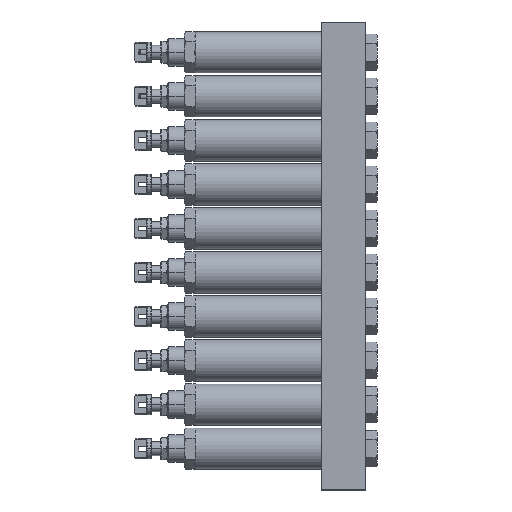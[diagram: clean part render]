
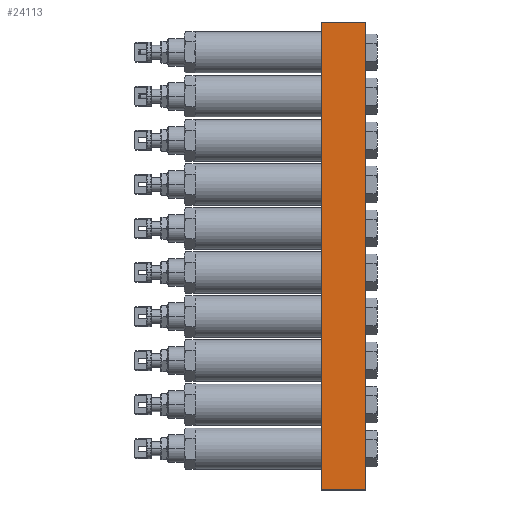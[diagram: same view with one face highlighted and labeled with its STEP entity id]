
A CAD part, left-side view. The second image highlights one B-rep face of the part: STEP entity #24113.
In plain terms, the highlighted planar face has unit normal (-1, 0, 0).
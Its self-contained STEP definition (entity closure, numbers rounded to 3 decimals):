
#157 = VERTEX_POINT ( 'NONE', #16193 ) ;
#922 = ORIENTED_EDGE ( 'NONE', *, *, #29813, .T. ) ;
#1280 = CARTESIAN_POINT ( 'NONE',  ( -39.141, -51.285, 22. ) ) ;
#1451 = VERTEX_POINT ( 'NONE', #27408 ) ;
#1725 = EDGE_CURVE ( 'NONE', #1451, #157, #31000, .T. ) ;
#1837 = EDGE_CURVE ( 'NONE', #33482, #157, #29148, .T. ) ;
#7020 = CARTESIAN_POINT ( 'NONE',  ( -39.141, -83.285, -318. ) ) ;
#7414 = AXIS2_PLACEMENT_3D ( 'NONE', #1280, #27989, #30556 ) ;
#10669 = CARTESIAN_POINT ( 'NONE',  ( -39.141, -51.285, -318. ) ) ;
#11656 = LINE ( 'NONE', #25946, #12994 ) ;
#12815 = ORIENTED_EDGE ( 'NONE', *, *, #1725, .F. ) ;
#12994 = VECTOR ( 'NONE', #23752, 1000. ) ;
#16193 = CARTESIAN_POINT ( 'NONE',  ( -39.141, -83.285, 22. ) ) ;
#16605 = EDGE_CURVE ( 'NONE', #23244, #1451, #11656, .T. ) ;
#16612 = ORIENTED_EDGE ( 'NONE', *, *, #1837, .T. ) ;
#18637 = VECTOR ( 'NONE', #20224, 1000. ) ;
#18803 = PLANE ( 'NONE',  #7414 ) ;
#20224 = DIRECTION ( 'NONE',  ( 0., -1., 0. ) ) ;
#20593 = DIRECTION ( 'NONE',  ( 0., 0., 1. ) ) ;
#21433 = CARTESIAN_POINT ( 'NONE',  ( -39.141, -51.285, -318. ) ) ;
#22637 = DIRECTION ( 'NONE',  ( 0., -1., 0. ) ) ;
#23244 = VERTEX_POINT ( 'NONE', #21433 ) ;
#23425 = EDGE_LOOP ( 'NONE', ( #16612, #12815, #28038, #922 ) ) ;
#23752 = DIRECTION ( 'NONE',  ( 0., 0., 1. ) ) ;
#24113 = ADVANCED_FACE ( 'NONE', ( #35200 ), #18803, .F. ) ;
#25946 = CARTESIAN_POINT ( 'NONE',  ( -39.141, -51.285, 22. ) ) ;
#25950 = VECTOR ( 'NONE', #20593, 1000. ) ;
#27408 = CARTESIAN_POINT ( 'NONE',  ( -39.141, -51.285, 22. ) ) ;
#27989 = DIRECTION ( 'NONE',  ( 1., 0., 0. ) ) ;
#28038 = ORIENTED_EDGE ( 'NONE', *, *, #16605, .F. ) ;
#29148 = LINE ( 'NONE', #29672, #25950 ) ;
#29415 = LINE ( 'NONE', #10669, #32151 ) ;
#29672 = CARTESIAN_POINT ( 'NONE',  ( -39.141, -83.285, 22. ) ) ;
#29813 = EDGE_CURVE ( 'NONE', #23244, #33482, #29415, .T. ) ;
#30556 = DIRECTION ( 'NONE',  ( 0., 0., -1. ) ) ;
#31000 = LINE ( 'NONE', #34813, #18637 ) ;
#32151 = VECTOR ( 'NONE', #22637, 1000. ) ;
#33482 = VERTEX_POINT ( 'NONE', #7020 ) ;
#34813 = CARTESIAN_POINT ( 'NONE',  ( -39.141, -51.285, 22. ) ) ;
#35200 = FACE_OUTER_BOUND ( 'NONE', #23425, .T. ) ;
